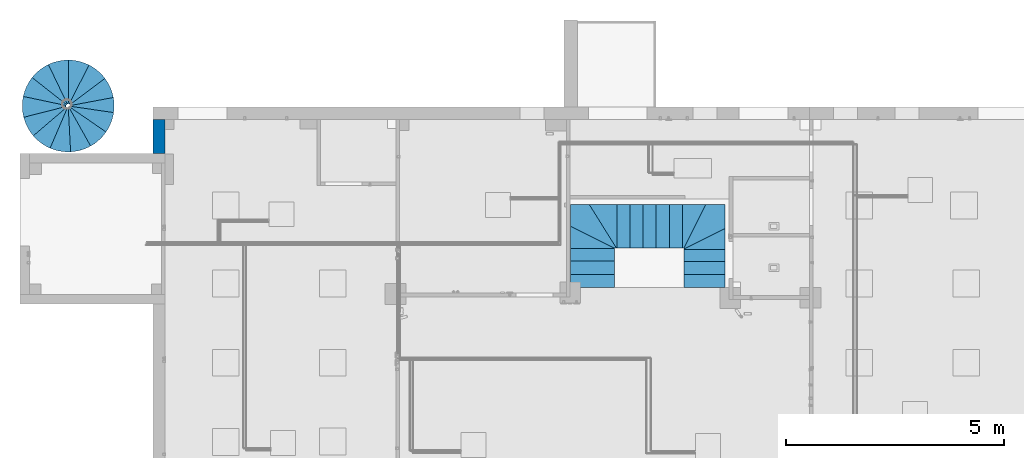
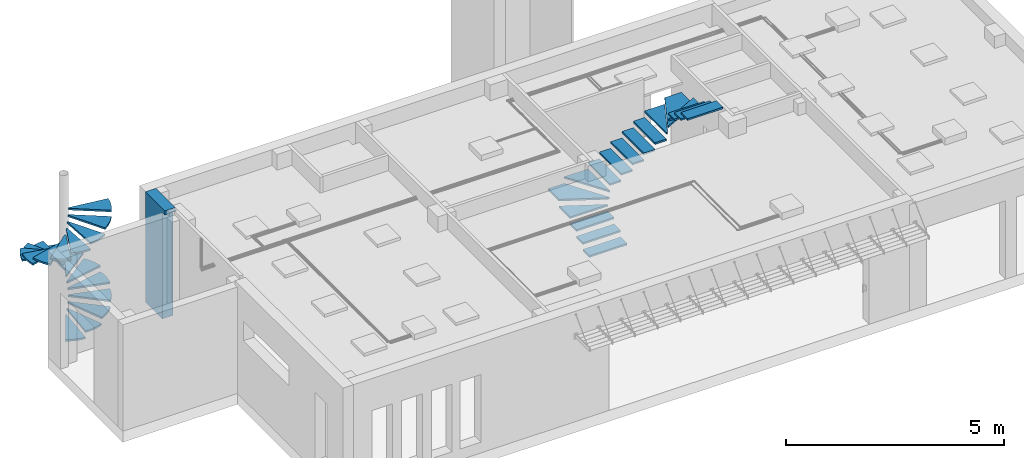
# One storey, part 3 of 24: 2 stairs, 1 wall, 2 elements without a shape of their own.
"""IFC2X3 building model written with IfcOpenShell, lengths in millimetres."""

import ifcopenshell
import ifcopenshell.guid

model = None  # the IFC model being written
_history = None  # IfcOwnerHistory: only IFC2X3 demands one
_inside = {}  # id of a spatial element -> (the spatial element, [elements in it])
_under = {}  # id of a project, library or spatial element -> (it, [spatial elements below it])
_declared = {}  # id of a project -> (the project, [libraries it declares])
_typed = {}  # id of a type object -> (the type object, [elements of that type])
_made_of = {}  # id of a material, layer set ... -> (it, [elements and type objects made of it])


def new_model(schema):
    """Start an empty IFC model of exactly this schema.

    Asked for "IFC4X3", IfcOpenShell would pick the latest addendum, in which some entities
    have other attributes; the version numbers below select the first issue.
    IFC2X3 requires an IfcOwnerHistory on every rooted entity: one is made here for all.
    """
    global model, _history
    if schema == "IFC4X3":
        model = ifcopenshell.file(schema_version=(4, 3, 0, 0))
    else:
        model = ifcopenshell.file(schema=schema)
    _inside.clear()
    _under.clear()
    _declared.clear()
    _typed.clear()
    _made_of.clear()
    _history = None
    if model.schema == "IFC2X3":
        org = make("IfcOrganization", Name="unknown")
        user = make(
            "IfcPersonAndOrganization",
            ThePerson=make("IfcPerson", FamilyName="unknown"),
            TheOrganization=org,
        )
        app = make(
            "IfcApplication",
            ApplicationDeveloper=org,
            Version="unknown",
            ApplicationFullName="unknown",
            ApplicationIdentifier="unknown",
        )
        _history = make(
            "IfcOwnerHistory",
            OwningUser=user,
            OwningApplication=app,
            ChangeAction="ADDED",
            CreationDate=0,
        )
    return model


def make(cls, **values):
    """One entity of the class cls with the attributes given. An attribute that is None is left unset."""
    return model.create_entity(
        cls, **{name: value for name, value in values.items() if value is not None}
    )


def entity(cls, *values):
    """Any entity or typed value of the class cls, its attributes in the order of the schema. None: left unset."""
    e = model.create_entity(cls)
    for i, value in enumerate(values):
        if value is not None:
            e[i] = value
    return e


def rooted(cls, **values):
    """An entity with a GlobalId (a new one), such as an element, a storey or a relation."""
    return make(cls, GlobalId=ifcopenshell.guid.new(), OwnerHistory=_history, **values)


def si_unit(unit_type, name, prefix=None):
    """IfcSIUnit, for example si_unit("LENGTHUNIT", "METRE", prefix="MILLI")."""
    return make("IfcSIUnit", UnitType=unit_type, Prefix=prefix, Name=name)


def converted_unit(unit_type, name, factor, base, dimensions=None, offset=None):
    """IfcConversionBasedUnit, such as the inch: factor (a typed value) times the base unit."""
    return make(
        "IfcConversionBasedUnit"
        if offset is None
        else "IfcConversionBasedUnitWithOffset",
        ConversionOffset=offset,
        Dimensions=None
        if dimensions is None
        else entity("IfcDimensionalExponents", *dimensions),
        UnitType=unit_type,
        Name=name,
        ConversionFactor=make(
            "IfcMeasureWithUnit", ValueComponent=factor, UnitComponent=base
        ),
    )


def derived_unit(unit_type, elements):
    """IfcDerivedUnit: a product of units, each with its exponent."""
    return make(
        "IfcDerivedUnit",
        Elements=[
            make("IfcDerivedUnitElement", Unit=unit, Exponent=power)
            for unit, power in elements
        ],
        UnitType=unit_type,
    )


def assignment(units):
    """IfcUnitAssignment: the units of a project."""
    return None if units is None else make("IfcUnitAssignment", Units=units)


def point(xyz):
    """IfcCartesianPoint."""
    return None if xyz is None else make("IfcCartesianPoint", Coordinates=xyz)


def direction(xyz):
    """IfcDirection."""
    return None if xyz is None else make("IfcDirection", DirectionRatios=xyz)


def frame(location, z_axis=None, x_axis=None):
    """IfcAxis2Placement3D, a coordinate frame: its origin and axes. An axis left out is left unset."""
    return make(
        "IfcAxis2Placement3D",
        Location=point(location),
        Axis=direction(z_axis),
        RefDirection=direction(x_axis),
    )


def frame_2d(location, x_axis=None):
    """IfcAxis2Placement2D, a coordinate frame in the plane: its origin and x axis."""
    return make(
        "IfcAxis2Placement2D", Location=point(location), RefDirection=direction(x_axis)
    )


def origin():
    """The frame at (0, 0, 0) with its axes left unset."""
    return frame((0.0, 0.0, 0.0))


def origin_2d_with_axis():
    """The frame at (0, 0) in the plane with the x axis (1, 0) written out."""
    return frame_2d((0.0, 0.0), x_axis=(1.0, 0.0))


def place(relative_to, where):
    """IfcLocalPlacement: puts the frame where relative to a parent placement (None: the world)."""
    return make(
        "IfcLocalPlacement", PlacementRelTo=relative_to, RelativePlacement=where
    )


def context(
    kind, dimensions, precision=None, world=None, true_north=None, identifier=None
):
    """IfcGeometricRepresentationContext, for example the 3D "Model" context."""
    return make(
        "IfcGeometricRepresentationContext",
        ContextIdentifier=identifier,
        ContextType=kind,
        CoordinateSpaceDimension=dimensions,
        Precision=precision,
        WorldCoordinateSystem=world,
        TrueNorth=true_north,
    )


def subcontext(parent, identifier, kind, view, scale=None):
    """IfcGeometricRepresentationSubContext, for example "Body" below "Model"."""
    return make(
        "IfcGeometricRepresentationSubContext",
        ContextIdentifier=identifier,
        ContextType=kind,
        ParentContext=parent,
        TargetScale=scale,
        TargetView=view,
    )


def project(units=None, contexts=None):
    """IfcProject with its units and contexts."""
    return rooted(
        "IfcProject",
        Name="project",
        RepresentationContexts=contexts,
        UnitsInContext=assignment(units),
    )


def spatial(cls, under=None, at=None, **own):
    """A site, building, storey or space (cls), placed at a placement, below another one or the project."""
    s = rooted(cls, ObjectPlacement=at, **own)
    if under is not None:
        _under.setdefault(under.id(), (under, []))[1].append(s)
    return s


def polyline(points):
    """IfcPolyline through the points."""
    return make("IfcPolyline", Points=[point(p) for p in points])


def circle_curve(where, radius):
    """IfcCircle in the frame where."""
    return make("IfcCircle", Position=where, Radius=radius)


def parameter(value):
    """IfcParameterValue: where a trimmed curve begins or ends, as a parameter of its basis curve."""
    return model.create_entity("IfcParameterValue", value)


def trimmed(basis, trim1, trim2, sense, master):
    """IfcTrimmedCurve: the piece of a basis curve between two trims."""
    return make(
        "IfcTrimmedCurve",
        BasisCurve=basis,
        Trim1=trim1,
        Trim2=trim2,
        SenseAgreement=sense,
        MasterRepresentation=master,
    )


def segment(curve, same_sense, transition):
    """IfcCompositeCurveSegment."""
    return make(
        "IfcCompositeCurveSegment",
        Transition=transition,
        SameSense=same_sense,
        ParentCurve=curve,
    )


def composite_curve(segments, self_intersect=None):
    """IfcCompositeCurve: segments joined end to end."""
    return make("IfcCompositeCurve", Segments=segments, SelfIntersect=self_intersect)


def profile(cls, at=None, kind="AREA", **sizes):
    """A parametric profile (cls). Its sizes go by their IFC names, for example OverallWidth=200.0."""
    return make(cls, ProfileType=kind, Position=at, **sizes)


def rectangle(**sizes):
    """IfcRectangleProfileDef."""
    return profile("IfcRectangleProfileDef", **sizes)


def outline(outer, holes=None, kind="AREA"):
    """IfcArbitraryClosedProfileDef: a profile drawn as a closed curve; with holes, ...WithVoids."""
    if holes is None:
        return make("IfcArbitraryClosedProfileDef", ProfileType=kind, OuterCurve=outer)
    return make(
        "IfcArbitraryProfileDefWithVoids",
        ProfileType=kind,
        OuterCurve=outer,
        InnerCurves=holes,
    )


def extrude(swept, where, along, depth):
    """IfcExtrudedAreaSolid: the profile swept, set in the frame where, extruded along a direction by depth."""
    return make(
        "IfcExtrudedAreaSolid",
        SweptArea=swept,
        Position=where,
        ExtrudedDirection=direction(along),
        Depth=depth,
    )


def faces_of(points, faces, orient=None, outer=None):
    """IfcFace entities. A face is a list of loops; a loop is a list of indices into points, from 0.

    orient and outer hold one flag for each loop. By default every Orientation is true, the
    first loop of a face is its IfcFaceOuterBound and the others are IfcFaceBound.
    """
    made = []
    for i, loops in enumerate(faces):
        bounds = []
        for j, loop in enumerate(loops):
            is_outer = j == 0 if outer is None else outer[i][j]
            bounds.append(
                make(
                    "IfcFaceOuterBound" if is_outer else "IfcFaceBound",
                    Bound=make("IfcPolyLoop", Polygon=[points[k] for k in loop]),
                    Orientation=True if orient is None else orient[i][j],
                )
            )
        made.append(make("IfcFace", Bounds=bounds))
    return made


def faceted_brep(points, faces, orient=None, outer=None, voids=None):
    """IfcFacetedBrep: a solid bounded by flat faces; with voids (closed shells), ...WithVoids."""
    shared = [point(p) for p in points]
    hull = make("IfcClosedShell", CfsFaces=faces_of(shared, faces, orient, outer))
    if voids is None:
        return make("IfcFacetedBrep", Outer=hull)
    return make(
        "IfcFacetedBrepWithVoids",
        Outer=hull,
        Voids=[
            make(cls, CfsFaces=faces_of(shared, fs, o, b)) for cls, fs, o, b in voids
        ],
    )


def shape(context_of_items, identifier, shape_type, items):
    """IfcShapeRepresentation: the items that make up one representation, for example the "Body"."""
    return make(
        "IfcShapeRepresentation",
        ContextOfItems=context_of_items,
        RepresentationIdentifier=identifier,
        RepresentationType=shape_type,
        Items=items,
    )


def material(Name=None, Category=None):
    """IfcMaterial."""
    return make("IfcMaterial", Name=Name, Category=Category)


def made_of(thing, what):
    """Note that an element or type object is made of a material, layer set ...; save() writes the relation."""
    if what is not None:
        _made_of.setdefault(what.id(), (what, []))[1].append(thing)
    return thing


def type_object(cls, material=None, **own):
    """A type object (cls), such as IfcWallType, which elements share."""
    return made_of(rooted(cls, **own), material)


def element(
    cls,
    number,
    at=None,
    inside=None,
    cuts=None,
    type_object=None,
    material=None,
    context=None,
    identifier="Body",
    shape_type=None,
    held_by="IfcProductDefinitionShape",
    body=None,
    shapes=None,
    **own,
):
    """One element of the class cls, such as IfcWall. Its Tag is "e" and its number.

    at: its placement. inside: the storey or other place that contains it. cuts: it is an
    opening in that element (IfcRelVoidsElement). A single representation is given by context,
    identifier, shape_type and body (its items); several are given by shapes. held_by: the class
    of the entity that holds the representations. save() writes the other relations.
    """
    e = rooted(cls, Tag="e%d" % number, ObjectPlacement=at, **own)
    if body is not None:
        shapes = [shape(context, identifier, shape_type, body)]
    if shapes is not None:
        e.Representation = make(held_by, Representations=shapes)
    if inside is not None:
        _inside.setdefault(inside.id(), (inside, []))[1].append(e)
    if cuts is not None:
        rooted(
            "IfcRelVoidsElement", RelatingBuildingElement=cuts, RelatedOpeningElement=e
        )
    if type_object is not None:
        _typed.setdefault(type_object.id(), (type_object, []))[1].append(e)
    return made_of(e, material)


def aggregate(whole, parts):
    """IfcRelAggregates: a whole, such as a stair, and the parts it consists of."""
    return rooted("IfcRelAggregates", RelatingObject=whole, RelatedObjects=parts)


def save(model, path):
    """Write the relations noted so far, then the file.

    IfcRelAggregates (storeys below a building ...), IfcRelContainedInSpatialStructure (elements
    in a storey), IfcRelDefinesByType, IfcRelAssociatesMaterial and IfcRelDeclares: one each for
    every whole, place, type object, material and project.
    """
    for whole, parts in _under.values():
        aggregate(whole, parts)
    for where, things in _inside.values():
        rooted(
            "IfcRelContainedInSpatialStructure",
            RelatedElements=things,
            RelatingStructure=where,
        )
    for kind, things in _typed.values():
        rooted("IfcRelDefinesByType", RelatedObjects=things, RelatingType=kind)
    for what, things in _made_of.values():
        rooted("IfcRelAssociatesMaterial", RelatedObjects=things, RelatingMaterial=what)
    for by, libraries in _declared.values():
        rooted("IfcRelDeclares", RelatingContext=by, RelatedDefinitions=libraries)
    model.write(path)


model = new_model("IFC2X3")

# Units and contexts
model_context = context("Model", 3, precision=0.01, world=origin(), true_north=direction((6.123031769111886e-17, 1.0)))
body_context = subcontext(model_context, "Body", "Model", "MODEL_VIEW")
ifc_project = project(units=[si_unit("LENGTHUNIT", "METRE", prefix="MILLI"), si_unit("AREAUNIT", "SQUARE_METRE"), si_unit("VOLUMEUNIT", "CUBIC_METRE"), converted_unit("PLANEANGLEUNIT", "DEGREE", entity("IfcRatioMeasure", 0.017453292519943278), si_unit("PLANEANGLEUNIT", "RADIAN"), dimensions=[0, 0, 0, 0, 0, 0, 0]), si_unit("MASSUNIT", "GRAM", prefix="KILO"), derived_unit("MASSDENSITYUNIT", [(si_unit("MASSUNIT", "GRAM", prefix="KILO"), 1), (si_unit("LENGTHUNIT", "METRE"), -3)]), derived_unit("MOMENTOFINERTIAUNIT", [(si_unit("LENGTHUNIT", "METRE"), 4)]), si_unit("TIMEUNIT", "SECOND"), si_unit("FREQUENCYUNIT", "HERTZ"), si_unit("THERMODYNAMICTEMPERATUREUNIT", "DEGREE_CELSIUS"), derived_unit("THERMALTRANSMITTANCEUNIT", [(si_unit("MASSUNIT", "GRAM", prefix="KILO"), 1), (si_unit("THERMODYNAMICTEMPERATUREUNIT", "KELVIN"), -1), (si_unit("TIMEUNIT", "SECOND"), -3)]), derived_unit("VOLUMETRICFLOWRATEUNIT", [(si_unit("LENGTHUNIT", "METRE"), 3), (si_unit("TIMEUNIT", "SECOND"), -1)]), derived_unit("MASSFLOWRATEUNIT", [(si_unit("MASSUNIT", "GRAM", prefix="KILO"), 1), (si_unit("TIMEUNIT", "SECOND"), -1)]), derived_unit("ROTATIONALFREQUENCYUNIT", [(si_unit("TIMEUNIT", "SECOND"), -1)]), si_unit("ELECTRICCURRENTUNIT", "AMPERE"), si_unit("ELECTRICVOLTAGEUNIT", "VOLT"), si_unit("POWERUNIT", "WATT"), si_unit("FORCEUNIT", "NEWTON", prefix="KILO"), si_unit("ILLUMINANCEUNIT", "LUX"), si_unit("LUMINOUSFLUXUNIT", "LUMEN"), si_unit("LUMINOUSINTENSITYUNIT", "CANDELA"), derived_unit("USERDEFINED", [(si_unit("MASSUNIT", "GRAM", prefix="KILO"), -1), (si_unit("LENGTHUNIT", "METRE"), -2), (si_unit("TIMEUNIT", "SECOND"), 3), (si_unit("LUMINOUSFLUXUNIT", "LUMEN"), 1)]), derived_unit("SOUNDPOWERUNIT", [(si_unit("MASSUNIT", "GRAM", prefix="KILO"), 1), (si_unit("LENGTHUNIT", "METRE"), 2), (si_unit("TIMEUNIT", "SECOND"), -3)]), derived_unit("SOUNDPRESSUREUNIT", [(si_unit("MASSUNIT", "GRAM", prefix="KILO"), 1), (si_unit("LENGTHUNIT", "METRE"), -1), (si_unit("TIMEUNIT", "SECOND"), -2)]), derived_unit("LINEARVELOCITYUNIT", [(si_unit("LENGTHUNIT", "METRE"), 1), (si_unit("TIMEUNIT", "SECOND"), -1)]), si_unit("PRESSUREUNIT", "PASCAL"), derived_unit("USERDEFINED", [(si_unit("LENGTHUNIT", "METRE"), -2), (si_unit("MASSUNIT", "GRAM", prefix="KILO"), 1), (si_unit("TIMEUNIT", "SECOND"), -2)]), derived_unit("LINEARFORCEUNIT", [(si_unit("MASSUNIT", "GRAM", prefix="KILO"), 1), (si_unit("LENGTHUNIT", "METRE"), 1), (si_unit("TIMEUNIT", "SECOND"), -2), (si_unit("LENGTHUNIT", "METRE"), -1)]), derived_unit("PLANARFORCEUNIT", [(si_unit("MASSUNIT", "GRAM", prefix="KILO"), 1), (si_unit("LENGTHUNIT", "METRE"), 1), (si_unit("TIMEUNIT", "SECOND"), -2), (si_unit("LENGTHUNIT", "METRE"), -2)])], contexts=[model_context])

# Site, building, storey
site_placement = place(None, origin())
site = spatial("IfcSite", under=ifc_project, at=site_placement, Name="Default", CompositionType="ELEMENT")
building_placement = place(site_placement, origin())
building = spatial("IfcBuilding", under=site, at=building_placement, CompositionType="ELEMENT")
storey_placement = place(building_placement, origin())
storey = spatial("IfcBuildingStorey", under=building, at=storey_placement, Name="Level 1", CompositionType="ELEMENT", Elevation=0.0)

# Wall
ifc_material_1 = material(Name="Finishing Coating")
wall_type = type_object("IfcWallType", Name="Basic Wall:My exterior wall 280mm", PredefinedType="NOTDEFINED", material=ifc_material_1)
wall_placement = place(storey_placement, frame((-9425.33652342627, 4118.67705163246, 0.0), z_axis=(0.0, 0.0, 1.0), x_axis=(0.0, 1.0, 0.0)))
element("IfcWall", 1, at=wall_placement, inside=storey, type_object=wall_type, material=ifc_material_1, Name="Basic Wall:My exterior wall 280mm:My exterior wall 280mm : Basic Wall:My exterior wall 280mm", ObjectType="Basic Wall:My exterior wall 280mm:My exterior wall 280mm : Basic Wall:My exterior wall 280mm", context=body_context, shape_type="Brep", body=[
    faceted_brep([(892.4844616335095, -280.0, 3095.0), (0.0, -280.0, 3095.0), (0.0, -280.0, 2985.0), (110.0, -280.0, 2985.0), (110.0, -280.0, 0.0), (892.4844616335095, -280.0, 0.0), (892.4844616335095, 0.0, 3095.0), (892.4844616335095, 0.0, 0.0), (110.0, 0.0, 0.0), (110.0, 0.0, 2985.0), (0.0, 0.0, 2985.0), (0.0, 0.0, 3095.0)], [[[0, 1, 2, 3, 4, 5]], [[6, 7, 8, 9, 10, 11]], [[1, 0, 6, 11]], [[2, 1, 11, 10]], [[3, 2, 10, 9]], [[4, 3, 9, 8]], [[5, 4, 8, 7]], [[0, 5, 7, 6]]]),
])

# Stairs
stair_1_placement = place(storey_placement, origin())
stair_1 = element("IfcStair", 2, at=stair_1_placement, inside=storey, ShapeType="NOTDEFINED")
ifc_material_2 = material(Name="Oak Flooring")
stair_2_placement = place(stair_1_placement, origin())
stair_2 = element("IfcStair", 3, at=stair_2_placement, material=ifc_material_2, Name="Assembled Stair:Stair:1026555 Run 1:Stair:1026555 Run 1 : Assembled Stair:Stair:1026555 Run 1:Stair:1026555 Run 1:Stair:1026555 Run 1 : Assembled Stair:Stair:1026555 Run 1 : Assembled Stair:Stair:1026555 Run 1:Stair:1026555 Run 1 : Assembled Stair:Stair:1026555 Run 1", ObjectType="Assembled Stair:Stair:1026555 Run 1:Stair:1026555 Run 1 : Assembled Stair:Stair:1026555 Run 1:Stair:1026555 Run 1:Stair:1026555 Run 1 : Assembled Stair:Stair:1026555 Run 1 : Assembled Stair:Stair:1026555 Run 1:Stair:1026555 Run 1 : Assembled Stair:Stair:1026555 Run 1", ShapeType="NOTDEFINED", context=body_context, shape_type="SweptSolid", body=[
    extrude(rectangle(XDim=300.00000000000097, YDim=999.79700015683, at=frame_2d((5.684341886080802e-14, 0.0), x_axis=(1.0, 0.0))), frame((634.635822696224, 1313.150622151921, 233.333333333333), z_axis=(0.0, 0.0, 1.0), x_axis=(0.0, 1.0, 0.0)), (0.0, 0.0, 1.0), 50.0),
    extrude(rectangle(XDim=300.0000000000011, YDim=999.7970001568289, at=origin_2d_with_axis()), frame((634.635822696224, 1613.150622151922, 416.666666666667), z_axis=(0.0, 0.0, 1.0), x_axis=(0.0, 1.0, 0.0)), (0.0, 0.0, 1.0), 50.0),
    extrude(rectangle(XDim=289.99999999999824, YDim=999.7970001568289, at=frame_2d((-1.4210854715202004e-13, 0.0), x_axis=(1.0, 0.0))), frame((634.635822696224, 1908.150622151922, 600.0), z_axis=(0.0, 0.0, 1.0), x_axis=(0.0, 1.0, 0.0)), (0.0, 0.0, 1.0), 50.0),
    extrude(outline(polyline([(-106.01446485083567, 399.5332676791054), (-106.01446485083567, -600.2637324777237), (404.2914089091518, -600.2637324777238), (-96.13123960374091, 401.4609295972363), (-96.13123960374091, 399.5332676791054), (-106.01446485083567, 399.5332676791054)])), frame((735.0010550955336, 2159.165087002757, 783.3333333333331), z_axis=(0.0, 0.0, -1.0), x_axis=(0.0, 1.0, 0.0)), (0.0, 0.0, -1.0), 50.0),
    extrude(outline(polyline([(-443.5606530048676, -221.16154414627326), (676.205003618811, -221.16154414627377), (719.8031205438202, -199.38162201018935), (-285.67208388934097, 416.0445430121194), (-666.7753872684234, 225.6601672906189), (-443.5606530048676, -221.16154414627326)])), frame((630.376644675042, 2563.0771096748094, 966.666666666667), z_axis=(0.0, 0.0, 1.0), x_axis=(0.8945841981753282, -0.44689944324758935, 0.0)), (0.0, 0.0, 1.0), 50.0),
    extrude(outline(polyline([(151.355253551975, -499.9484157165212), (160.8690559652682, -499.9484157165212), (160.8690559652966, 499.9484157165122), (-473.0933654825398, 499.9484157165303), (151.355253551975, -499.9484157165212)])), frame((1033.84235268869, 2562.982263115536, 1150.0)), (0.0, 0.0, 1.0), 50.0),
    extrude(rectangle(XDim=299.9922258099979, YDim=999.8968314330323, at=frame_2d((7.105427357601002e-14, 1.4210854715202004e-13), x_axis=(1.0, 0.0))), frame((1344.7075215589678, 2562.9822631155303, 1333.33333333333)), (0.0, 0.0, 1.0), 50.0),
    extrude(rectangle(XDim=300.0000000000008, YDim=999.8968314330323, at=frame_2d((1.2789769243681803e-13, 1.4210854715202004e-13), x_axis=(1.0, 0.0))), frame((1644.703634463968, 2562.9822631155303, 1516.66666666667)), (0.0, 0.0, 1.0), 50.0),
    extrude(rectangle(XDim=300.00000000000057, YDim=999.8968314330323, at=frame_2d((0.0, 1.4210854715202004e-13), x_axis=(1.0, 0.0))), frame((1944.703634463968, 2562.9822631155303, 1700.0)), (0.0, 0.0, 1.0), 50.0),
    extrude(rectangle(XDim=300.0000000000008, YDim=999.8968314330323, at=frame_2d((-1.2789769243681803e-13, 1.4210854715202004e-13), x_axis=(1.0, 0.0))), frame((2244.703634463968, 2562.9822631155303, 1883.3333333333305)), (0.0, 0.0, 1.0), 50.0),
    extrude(rectangle(XDim=300.0000000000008, YDim=999.8968314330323, at=frame_2d((1.2789769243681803e-13, 1.4210854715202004e-13), x_axis=(1.0, 0.0))), frame((2544.703634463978, 2562.9822631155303, 2066.66666666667)), (0.0, 0.0, 1.0), 50.0),
    extrude(outline(polyline([(-141.3323913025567, -499.9484157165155), (-108.64514030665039, -499.9484157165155), (391.3099229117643, 499.94841571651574), (-141.3323913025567, 499.94841571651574), (-141.3323913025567, -499.9484157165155)])), frame((2836.0360257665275, 2562.9822631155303, 2250.0)), (0.0, 0.0, 1.0), 50.0),
    extrude(outline(polyline([(-576.7833839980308, -176.67732881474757), (541.1382316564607, -176.67732881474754), (538.8024577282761, -172.00584307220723), (556.8354794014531, -162.9892123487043), (-284.22446195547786, 467.0624556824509), (-775.7683228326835, 221.2872573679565), (-576.7833839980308, -176.67732881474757)])), frame((3127.4224206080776, 2468.0279648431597, 2433.33333333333), z_axis=(0.0, 0.0, 1.0), x_axis=(-0.447218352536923, -0.8944248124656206, 0.0)), (0.0, 0.0, 1.0), 49.99999999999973),
    extrude(outline(polyline([(114.32988517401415, -469.83564319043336), (120.91722049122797, -469.83564319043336), (120.91722049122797, 469.8356431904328), (-356.1643261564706, 469.8356431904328), (114.32988517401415, -469.83564319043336)])), frame((3202.4494223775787, 2157.202147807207, 2616.66666666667), z_axis=(0.0, 0.0, 1.0), x_axis=(0.0, -1.0, 0.0)), (0.0, 0.0, 1.0), 50.0),
    extrude(rectangle(XDim=275.0, YDim=939.671286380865, at=frame_2d((-1.2789769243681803e-13, 2.5579538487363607e-13), x_axis=(1.0, 0.0))), frame((3202.449422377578, 1898.7849273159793, 2800.0), z_axis=(0.0, 0.0, 1.0), x_axis=(0.0, -1.0, 0.0)), (0.0, 0.0, 1.0), 50.0),
    extrude(rectangle(XDim=299.9999999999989, YDim=939.671286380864, at=frame_2d((0.0, -2.8421709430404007e-13), x_axis=(1.0, 0.0))), frame((3202.4494223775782, 1611.2849273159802, 2983.33333333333), z_axis=(0.0, 0.0, 1.0), x_axis=(0.0, -1.0, 0.0)), (0.0, 0.0, 1.0), 50.0),
    extrude(rectangle(XDim=299.9999999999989, YDim=939.671286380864, at=frame_2d((0.0, -2.8421709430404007e-13), x_axis=(1.0, 0.0))), frame((3202.4494223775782, 1311.2849273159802, 3166.66666666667), z_axis=(0.0, 0.0, 1.0), x_axis=(0.0, -1.0, 0.0)), (0.0, 0.0, 1.0), 50.0),
])
aggregate(stair_1, [stair_2])

stair_3_placement = place(storey_placement, origin())
stair_3 = element("IfcStair", 4, at=stair_3_placement, inside=storey, ShapeType="NOTDEFINED")
ifc_material_3 = material(Name="Exterior Tread Stair")
stair_4_placement = place(stair_3_placement, origin())
stair_4 = element("IfcStair", 5, at=stair_4_placement, material=ifc_material_3, Name="Assembled Stair:Stair:1027112 Run 1:Stair:1027112 Run 1 : Assembled Stair:Stair:1027112 Run 1:Stair:1027112 Run 1:Stair:1027112 Run 1 : Assembled Stair:Stair:1027112 Run 1 : Assembled Stair:Stair:1027112 Run 1:Stair:1027112 Run 1 : Assembled Stair:Stair:1027112 Run 1", ObjectType="Assembled Stair:Stair:1027112 Run 1:Stair:1027112 Run 1 : Assembled Stair:Stair:1027112 Run 1:Stair:1027112 Run 1:Stair:1027112 Run 1 : Assembled Stair:Stair:1027112 Run 1 : Assembled Stair:Stair:1027112 Run 1:Stair:1027112 Run 1 : Assembled Stair:Stair:1027112 Run 1", ShapeType="NOTDEFINED", context=body_context, shape_type="SweptSolid", body=[
    extrude(outline(composite_curve([segment(trimmed(circle_curve(frame_2d((-521.8247959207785, -123.90460002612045), x_axis=(1.0, 0.0)), 1050.7072430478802), [parameter(0.23783932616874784)], [parameter(26.4766130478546)], True, "PARAMETER"), True, "CONTINUOUS"), segment(polyline([(418.68050549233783, 344.53481826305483), (-476.4359102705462, -101.29766398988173)]), True, "CONTINUOUS"), segment(trimmed(circle_curve(frame_2d((-521.8247959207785, -123.90460002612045), x_axis=(1.0, 0.0)), 50.70724304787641), [parameter(0.23783932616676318)], [parameter(26.476613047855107)], True, "PARAMETER"), False, "CONTINUOUS"), segment(polyline([(-471.1179897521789, -123.69411084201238), (528.8733945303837, -119.54304343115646)]), True, "CONTINUOUS")], self_intersect=False)), frame((-11523.142444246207, 4805.311874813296, 123.684210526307), z_axis=(0.0, 0.0, 1.0), x_axis=(-0.512425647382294, -0.8587315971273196, 0.0)), (0.0, 0.0, 1.0), 49.99999999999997),
    extrude(outline(composite_curve([segment(trimmed(circle_curve(frame_2d((-413.27581915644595, -341.84289497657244), x_axis=(1.0, 0.0)), 1050.7072430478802), [parameter(26.476613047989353)], [parameter(52.71538676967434)], True, "PARAMETER"), True, "CONTINUOUS"), segment(polyline([(223.21610271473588, 494.137812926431), (-382.5586514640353, -301.498377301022)]), True, "CONTINUOUS"), segment(trimmed(circle_curve(frame_2d((-413.27581915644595, -341.84289497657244), x_axis=(1.0, 0.0)), 50.70724304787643), [parameter(26.476613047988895)], [parameter(52.71538676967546)], True, "PARAMETER"), False, "CONTINUOUS"), segment(polyline([(-367.8869335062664, -319.23595894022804), (527.2294822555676, 126.59652331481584)]), True, "CONTINUOUS")], self_intersect=False)), frame((-11280.3686644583, 4786.849139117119, 297.368421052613), z_axis=(0.0, 0.0, 1.0), x_axis=(-0.5124256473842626, -0.8587315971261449, 0.0)), (0.0, 0.0, 1.0), 50.00000000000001),
    extrude(outline(composite_curve([segment(trimmed(circle_curve(frame_2d((-413.27581915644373, -341.8428949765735), x_axis=(1.0, 0.0)), 1050.70724304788), [parameter(26.476613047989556)], [parameter(52.715386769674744)], True, "PARAMETER"), True, "CONTINUOUS"), segment(polyline([(223.2161027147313, 494.13781292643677), (-382.55865146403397, -301.4983773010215)]), True, "CONTINUOUS"), segment(trimmed(circle_curve(frame_2d((-413.27581915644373, -341.8428949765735), x_axis=(1.0, 0.0)), 50.70724304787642), [parameter(26.4766130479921)], [parameter(52.71538676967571)], True, "PARAMETER"), False, "CONTINUOUS"), segment(polyline([(-367.88693350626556, -319.2359589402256), (527.2294822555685, 126.59652331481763)]), True, "CONTINUOUS")], self_intersect=False)), frame((-11054.4478298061, 4877.622247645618, 471.05263157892), z_axis=(0.0, 0.0, 1.0), x_axis=(-0.07996863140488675, -0.9967973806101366, 0.0)), (0.0, 0.0, 1.0), 50.0),
    extrude(outline(composite_curve([segment(trimmed(circle_curve(frame_2d((-413.27581915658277, -341.84289497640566), x_axis=(1.0, 0.0)), 1050.70724304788), [parameter(26.476613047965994)], [parameter(52.71538676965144)], True, "PARAMETER"), True, "CONTINUOUS"), segment(polyline([(223.21610271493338, 494.13781292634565), (-382.5586514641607, -301.49837730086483)]), True, "CONTINUOUS"), segment(trimmed(circle_curve(frame_2d((-413.27581915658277, -341.84289497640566), x_axis=(1.0, 0.0)), 50.70724304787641), [parameter(26.4766130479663)], [parameter(52.71538676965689)], True, "PARAMETER"), False, "CONTINUOUS"), segment(polyline([(-367.8869335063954, -319.2359589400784), (527.2294822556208, 126.59652331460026)]), True, "CONTINUOUS")], self_intersect=False)), frame((-10891.93798405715, 5058.924566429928, 644.7368421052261), z_axis=(0.0, 0.0, 1.0), x_axis=(0.368968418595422, -0.929441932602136, 0.0)), (0.0, 0.0, 1.0), 50.0),
    extrude(outline(composite_curve([segment(trimmed(circle_curve(frame_2d((-413.27581915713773, -341.84289497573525), x_axis=(1.0, 0.0)), 1050.70724304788), [parameter(26.476613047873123)], [parameter(52.715386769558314)], True, "PARAMETER"), True, "CONTINUOUS"), segment(polyline([(223.21610271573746, 494.1378129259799), (-382.55865146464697, -301.49837730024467)]), True, "CONTINUOUS"), segment(trimmed(circle_curve(frame_2d((-413.27581915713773, -341.84289497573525), x_axis=(1.0, 0.0)), 50.70724304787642), [parameter(26.476613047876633)], [parameter(52.715386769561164)], True, "PARAMETER"), False, "CONTINUOUS"), segment(polyline([(-367.88693350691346, -319.2359589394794), (527.229482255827, 126.59652331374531)]), True, "CONTINUOUS")], self_intersect=False)), frame((-10826.32935631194, 5293.393090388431, 818.421052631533), z_axis=(0.0, 0.0, 1.0), x_axis=(0.7418680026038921, -0.6705459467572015, 0.0)), (0.0, 0.0, 1.0), 49.99999999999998),
    extrude(outline(composite_curve([segment(trimmed(circle_curve(frame_2d((-413.2758191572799, -341.8428949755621), x_axis=(1.0, 0.0)), 1050.70724304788), [parameter(26.476613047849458)], [parameter(52.715386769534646)], True, "PARAMETER"), True, "CONTINUOUS"), segment(polyline([(223.2161027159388, 494.13781292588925), (-382.55865146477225, -301.49837730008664)]), True, "CONTINUOUS"), segment(trimmed(circle_curve(frame_2d((-413.2758191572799, -341.8428949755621), x_axis=(1.0, 0.0)), 50.70724304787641), [parameter(26.476613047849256)], [parameter(52.715386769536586)], True, "PARAMETER"), False, "CONTINUOUS"), segment(polyline([(-367.88693350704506, -319.23595893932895), (527.2294822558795, 126.59652331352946)]), True, "CONTINUOUS")], self_intersect=False)), frame((-10871.142653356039, 5532.708257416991, 992.1052631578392), z_axis=(0.0, 0.0, 1.0), x_axis=(0.9618825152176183, -0.2734630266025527, 0.0)), (0.0, 0.0, 1.0), 50.0),
    extrude(outline(composite_curve([segment(trimmed(circle_curve(frame_2d((-413.2758191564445, -341.8428949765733), x_axis=(1.0, 0.0)), 1050.70724304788), [parameter(26.476613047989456)], [parameter(52.715386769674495)], True, "PARAMETER"), True, "CONTINUOUS"), segment(polyline([(223.2161027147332, 494.13781292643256), (-382.5586514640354, -301.49837730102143)]), True, "CONTINUOUS"), segment(trimmed(circle_curve(frame_2d((-413.2758191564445, -341.8428949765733), x_axis=(1.0, 0.0)), 50.70724304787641), [parameter(26.476613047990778)], [parameter(52.71538676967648)], True, "PARAMETER"), False, "CONTINUOUS"), segment(polyline([(-367.88693350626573, -319.2359589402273), (527.2294822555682, 126.59652331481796)]), True, "CONTINUOUS")], self_intersect=False)), frame((-11017.142695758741, 5727.551703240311, 1165.78947368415), z_axis=(0.0, 0.0, 1.0), x_axis=(0.9836710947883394, 0.17997549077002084, 0.0)), (0.0, 0.0, 1.0), 49.99999999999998),
    extrude(outline(composite_curve([segment(trimmed(circle_curve(frame_2d((-413.2758191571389, -341.8428949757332), x_axis=(1.0, 0.0)), 1050.70724304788), [parameter(26.47661304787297)], [parameter(52.71538676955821)], True, "PARAMETER"), True, "CONTINUOUS"), segment(polyline([(223.21610271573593, 494.1378129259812), (-382.55865146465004, -301.49837730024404)]), True, "CONTINUOUS"), segment(trimmed(circle_curve(frame_2d((-413.2758191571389, -341.8428949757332), x_axis=(1.0, 0.0)), 50.70724304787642), [parameter(26.476613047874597)], [parameter(52.715386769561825)], True, "PARAMETER"), False, "CONTINUOUS"), segment(polyline([(-367.8869335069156, -319.23595893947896), (527.2294822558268, 126.59652331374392)]), True, "CONTINUOUS")], self_intersect=False)), frame((-11234.2416150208, 5837.769850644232, 1339.47368421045), z_axis=(0.0, 0.0, 1.0), x_axis=(0.8027435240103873, 0.5963244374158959, 0.0)), (0.0, 0.0, 1.0), 50.0),
    extrude(outline(composite_curve([segment(trimmed(circle_curve(frame_2d((-413.2758191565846, -341.8428949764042), x_axis=(1.0, 0.0)), 1050.70724304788), [parameter(26.476613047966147)], [parameter(52.71538676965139)], True, "PARAMETER"), True, "CONTINUOUS"), segment(polyline([(223.21610271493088, 494.137812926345), (-382.5586514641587, -301.4983773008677)]), True, "CONTINUOUS"), segment(trimmed(circle_curve(frame_2d((-413.2758191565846, -341.8428949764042), x_axis=(1.0, 0.0)), 50.70724304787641), [parameter(26.476613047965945)], [parameter(52.715386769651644)], True, "PARAMETER"), False, "CONTINUOUS"), segment(polyline([(-367.8869335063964, -319.2359589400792), (527.2294822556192, 126.59652331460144)]), True, "CONTINUOUS")], self_intersect=False)), frame((-11477.699398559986, 5840.648808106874, 1513.1578947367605), z_axis=(0.0, 0.0, 1.0), x_axis=(0.4563855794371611, 0.8897821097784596, 0.0)), (0.0, 0.0, 1.0), 50.0),
    extrude(outline(composite_curve([segment(trimmed(circle_curve(frame_2d((-413.27581915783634, -341.842894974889), x_axis=(1.0, 0.0)), 1050.70724304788), [parameter(26.47661304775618)], [parameter(52.71538676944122)], True, "PARAMETER"), True, "CONTINUOUS"), segment(polyline([(223.21610271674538, 494.1378129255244), (-382.5586514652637, -301.49837729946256)]), True, "CONTINUOUS"), segment(trimmed(circle_curve(frame_2d((-413.27581915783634, -341.842894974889), x_axis=(1.0, 0.0)), 50.70724304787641), [parameter(26.476613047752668)], [parameter(52.71538676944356)], True, "PARAMETER"), False, "CONTINUOUS"), segment(polyline([(-367.8869335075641, -319.23595893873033), (527.2294822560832, 126.59652331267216)]), True, "CONTINUOUS")], self_intersect=False)), frame((-11697.34396658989, 5735.5952765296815, 1686.8421052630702), z_axis=(0.0, 0.0, 1.0), x_axis=(0.01597513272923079, 0.9998723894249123, 0.0)), (0.0, 0.0, 1.0), 50.0),
    extrude(outline(composite_curve([segment(trimmed(circle_curve(frame_2d((-413.2758191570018, -341.8428949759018), x_axis=(1.0, 0.0)), 1050.70724304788), [parameter(26.476613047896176)], [parameter(52.715386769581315)], True, "PARAMETER"), True, "CONTINUOUS"), segment(polyline([(223.21610271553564, 494.1378129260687), (-382.5586514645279, -301.49837730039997)]), True, "CONTINUOUS"), segment(trimmed(circle_curve(frame_2d((-413.2758191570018, -341.8428949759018), x_axis=(1.0, 0.0)), 50.70724304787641), [parameter(26.476613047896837)], [parameter(52.71538676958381)], True, "PARAMETER"), False, "CONTINUOUS"), segment(polyline([(-367.88693350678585, -319.2359589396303), (527.2294822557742, 126.59652331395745)]), True, "CONTINUOUS")], self_intersect=False)), frame((-11847.910696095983, 5544.25881704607, 1860.52631578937), z_axis=(0.0, 0.0, 1.0), x_axis=(-0.4277274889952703, 0.9039077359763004, 0.0)), (0.0, 0.0, 1.0), 49.999999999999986),
    extrude(outline(composite_curve([segment(trimmed(circle_curve(frame_2d((-413.2758191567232, -341.8428949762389), x_axis=(1.0, 0.0)), 1050.70724304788), [parameter(26.47661304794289)], [parameter(52.71538676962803)], True, "PARAMETER"), True, "CONTINUOUS"), segment(polyline([(223.216102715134, 494.13781292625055), (-382.558651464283, -301.49837730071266)]), True, "CONTINUOUS"), segment(trimmed(circle_curve(frame_2d((-413.2758191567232, -341.8428949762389), x_axis=(1.0, 0.0)), 50.70724304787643), [parameter(26.4766130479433)], [parameter(52.71538676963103)], True, "PARAMETER"), False, "CONTINUOUS"), segment(polyline([(-367.88693350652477, -319.23595893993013), (527.2294822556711, 126.59652331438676)]), True, "CONTINUOUS")], self_intersect=False)), frame((-11898.370610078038, 5306.070282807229, 2034.21052631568), z_axis=(0.0, 0.0, 1.0), x_axis=(-0.7832835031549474, 0.6216646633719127, 0.0)), (0.0, 0.0, 1.0), 50.0),
    extrude(outline(composite_curve([segment(trimmed(circle_curve(frame_2d((-413.27581915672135, -341.84289497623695), x_axis=(1.0, 0.0)), 1050.70724304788), [parameter(26.47661304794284)], [parameter(52.71538676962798)], True, "PARAMETER"), True, "CONTINUOUS"), segment(polyline([(223.21610271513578, 494.1378129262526), (-382.5586514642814, -301.49837730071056)]), True, "CONTINUOUS"), segment(trimmed(circle_curve(frame_2d((-413.27581915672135, -341.84289497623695), x_axis=(1.0, 0.0)), 50.70724304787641), [parameter(26.476613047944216)], [parameter(52.71538676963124)], True, "PARAMETER"), False, "CONTINUOUS"), segment(polyline([(-367.8869335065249, -319.2359589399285), (527.2294822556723, 126.59652331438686)]), True, "CONTINUOUS")], self_intersect=False)), frame((-11838.324867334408, 5070.115860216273, 2207.89473684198), z_axis=(0.0, 0.0, 1.0), x_axis=(-0.9774194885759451, 0.21130817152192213, 0.0)), (0.0, 0.0, 1.0), 50.0),
    extrude(outline(composite_curve([segment(trimmed(circle_curve(frame_2d((-413.2758191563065, -341.84289497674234), x_axis=(1.0, 0.0)), 1050.70724304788), [parameter(26.476613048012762)], [parameter(52.7153867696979)], True, "PARAMETER"), True, "CONTINUOUS"), segment(polyline([(223.21610271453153, 494.13781292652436), (-382.55865146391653, -301.49837730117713)]), True, "CONTINUOUS"), segment(trimmed(circle_curve(frame_2d((-413.2758191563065, -341.84289497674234), x_axis=(1.0, 0.0)), 50.707243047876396), [parameter(26.47661304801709)], [parameter(52.715386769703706)], True, "PARAMETER"), False, "CONTINUOUS"), segment(polyline([(-367.88693350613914, -319.23595894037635), (527.2294822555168, 126.59652331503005)]), True, "CONTINUOUS")], self_intersect=False)), frame((-11680.147768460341, 4885.0213271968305, 2381.57894736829), z_axis=(0.0, 0.0, 1.0), x_axis=(-0.970127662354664, -0.2425949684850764, 0.0)), (0.0, 0.0, 1.0), 50.0),
    extrude(outline(composite_curve([segment(trimmed(circle_curve(frame_2d((-413.2758191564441, -341.84289497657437), x_axis=(1.0, 0.0)), 1050.7072430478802), [parameter(26.476613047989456)], [parameter(52.715386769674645)], True, "PARAMETER"), True, "CONTINUOUS"), segment(polyline([(223.21610271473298, 494.1378129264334), (-382.5586514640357, -301.49837730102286)]), True, "CONTINUOUS"), segment(trimmed(circle_curve(frame_2d((-413.2758191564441, -341.84289497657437), x_axis=(1.0, 0.0)), 50.70724304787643), [parameter(26.47661304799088)], [parameter(52.71538676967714)], True, "PARAMETER"), False, "CONTINUOUS"), segment(polyline([(-367.8869335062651, -319.23595894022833), (527.2294822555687, 126.59652331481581)]), True, "CONTINUOUS")], self_intersect=False)), frame((-11456.436644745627, 4788.931193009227, 2555.2631578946), z_axis=(0.0, 0.0, 1.0), x_axis=(-0.7629107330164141, -0.6465038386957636, 0.0)), (0.0, 0.0, 1.0), 50.0),
    extrude(outline(composite_curve([segment(trimmed(circle_curve(frame_2d((-413.27581915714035, -341.84289497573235), x_axis=(1.0, 0.0)), 1050.7072430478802), [parameter(26.476613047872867)], [parameter(52.71538676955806)], True, "PARAMETER"), True, "CONTINUOUS"), segment(polyline([(223.21610271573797, 494.1378129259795), (-382.5586514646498, -301.49837730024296)]), True, "CONTINUOUS"), segment(trimmed(circle_curve(frame_2d((-413.27581915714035, -341.84289497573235), x_axis=(1.0, 0.0)), 50.70724304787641), [parameter(26.476613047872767)], [parameter(52.7153867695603)], True, "PARAMETER"), False, "CONTINUOUS"), segment(polyline([(-367.8869335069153, -319.2359589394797), (527.2294822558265, 126.59652331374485)]), True, "CONTINUOUS")], self_intersect=False)), frame((-11213.29416000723, 4801.6478308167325, 2728.9473684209), z_axis=(0.0, 0.0, 1.0), x_axis=(-0.39847222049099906, -0.9171804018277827, 0.0)), (0.0, 0.0, 1.0), 49.999999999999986),
    extrude(outline(composite_curve([segment(trimmed(circle_curve(frame_2d((-413.27581915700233, -341.84289497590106), x_axis=(1.0, 0.0)), 1050.70724304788), [parameter(26.476613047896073)], [parameter(52.715386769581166)], True, "PARAMETER"), True, "CONTINUOUS"), segment(polyline([(223.2161027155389, 494.13781292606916), (-382.5586514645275, -301.498377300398)]), True, "CONTINUOUS"), segment(trimmed(circle_curve(frame_2d((-413.27581915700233, -341.84289497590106), x_axis=(1.0, 0.0)), 50.70724304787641), [parameter(26.476613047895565)], [parameter(52.71538676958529)], True, "PARAMETER"), False, "CONTINUOUS"), segment(polyline([(-367.88693350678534, -319.23595893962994), (527.2294822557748, 126.59652331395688)]), True, "CONTINUOUS")], self_intersect=False)), frame((-11000.827416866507, 4920.550580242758, 2902.63157894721), z_axis=(0.0, 0.0, 1.0), x_axis=(0.04808393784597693, -0.9988432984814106, 0.0)), (0.0, 0.0, 1.0), 50.0),
    extrude(outline(composite_curve([segment(trimmed(circle_curve(frame_2d((-413.27581915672, -341.84289497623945), x_axis=(1.0, 0.0)), 1050.70724304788), [parameter(26.476613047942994)], [parameter(52.71538676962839)], True, "PARAMETER"), True, "CONTINUOUS"), segment(polyline([(223.21610271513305, 494.1378129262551), (-382.5586514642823, -301.49837730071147)]), True, "CONTINUOUS"), segment(trimmed(circle_curve(frame_2d((-413.27581915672, -341.84289497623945), x_axis=(1.0, 0.0)), 50.70724304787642), [parameter(26.476613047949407)], [parameter(52.715386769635)], True, "PARAMETER"), False, "CONTINUOUS"), segment(polyline([(-367.8869335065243, -319.23595893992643), (527.2294822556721, 126.59652331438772)]), True, "CONTINUOUS")], self_intersect=False)), frame((-10862.821823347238, 5121.135816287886, 3076.315789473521), z_axis=(0.0, 0.0, 1.0), x_axis=(0.48473089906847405, -0.8746633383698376, 0.0)), (0.0, 0.0, 1.0), 49.99999999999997),
])
aggregate(stair_3, [stair_4])

save(model, "model.ifc")
